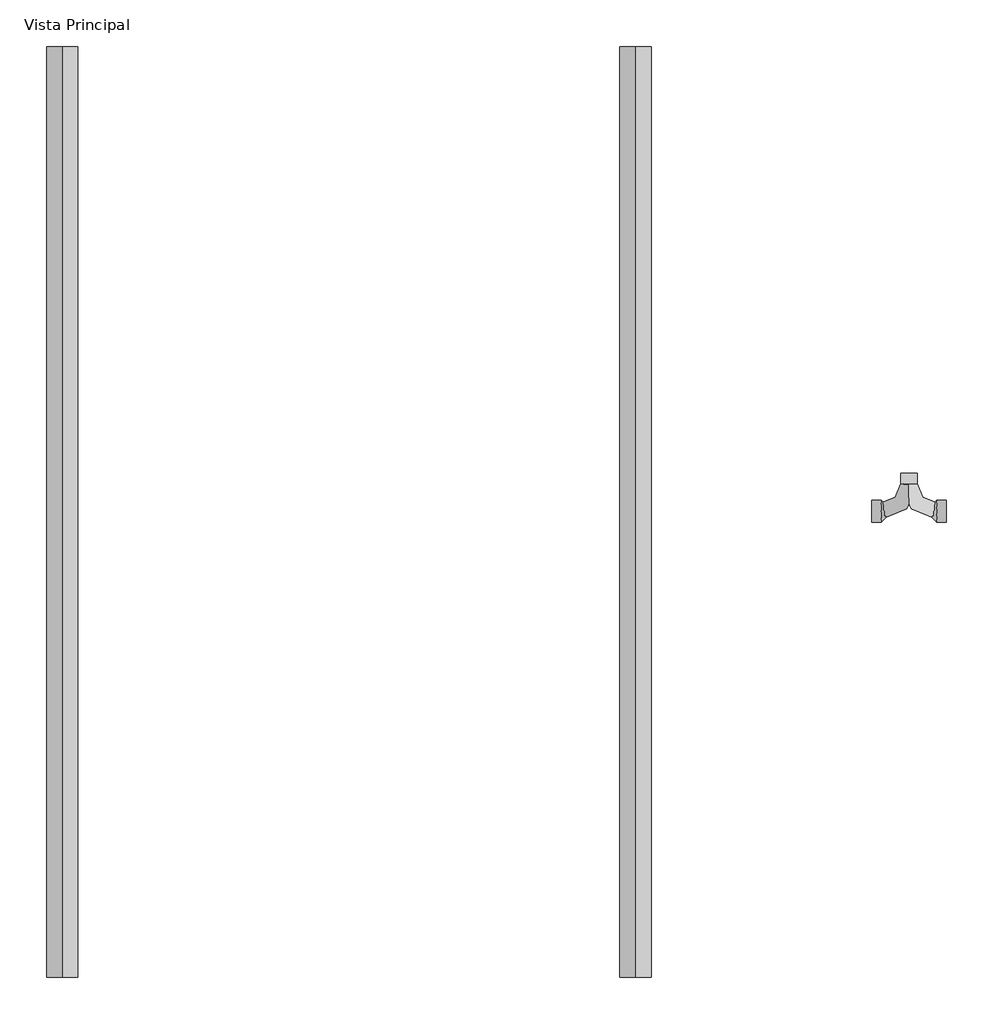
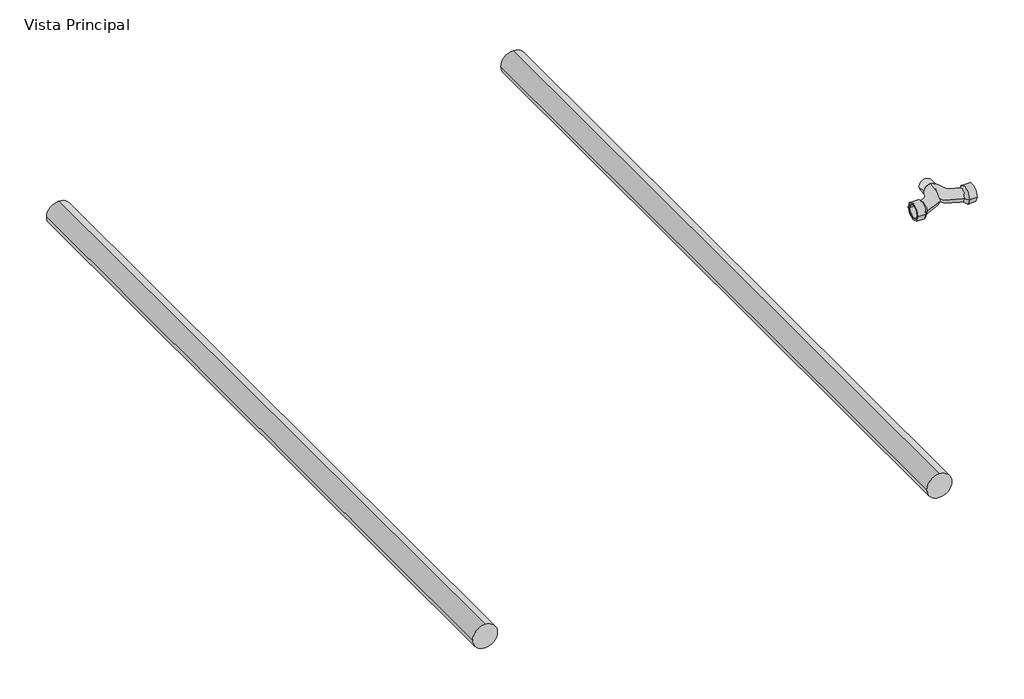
# One storey, incomplete: 2 pipe segments, 1 pipe fitting.
"""IFC4 building model written with IfcOpenShell, lengths in millimetres."""

from ifc_helpers import new_model, si_unit, point, frame, frame_2d, origin, place, context, project, spatial, circle_curve, trimmed, segment, composite_curve, outline, extrude, transform, mapped, element, save
from components import var_d6b9dcd6

model = new_model("IFC4")

# Units and contexts
model_context = context("Model", 3, world=origin())
ifc_project = project(units=[si_unit("LENGTHUNIT", "METRE", prefix="MILLI")], contexts=[model_context])

# Site, building, storey
site = spatial("IfcSite", under=ifc_project)
building = spatial("IfcBuilding", under=site)
storey = spatial("IfcBuildingStorey", under=building, Name="Vista Principal", Elevation=0.0)

# Pipe fitting
placement = place(None, origin())
var_shape = var_d6b9dcd6(model_context)
element("IfcPipeFitting", 1, ObjectType="AmancoWavin_ConexõesdeTubos_CPVCFlowGuardTêMisturador : var.", at=placement, inside=storey, context=model_context, shape_type="MappedRepresentation", body=[
    mapped(var_shape, transform((88018.0103695, 47356.4920228, 0.0), x_axis=(1.0, 0.0, 0.0), y_axis=(0.0, 1.0, 0.0), z_axis=(0.0, 0.0, 1.0))),
])

# Pipe segments
element("IfcPipeSegment", 2, ObjectType="Amanco Wavin Super CPVC FlowGuard", at=placement, inside=storey, context=model_context, shape_type="SweptSolid", body=[
    extrude(outline(composite_curve([segment(trimmed(circle_curve(frame_2d((0.0, 86562.6450515)), 26.975), [point((0.0, 86535.6700515))], [point((-26.975, 86562.6450515))], False, "CARTESIAN"), True, "CONTINUOUS"), segment(trimmed(circle_curve(frame_2d((0.0, 86562.6450515)), 26.975), [point((-26.975, 86562.6450515))], [point((0.0, 86589.6200515))], False, "CARTESIAN"), True, "CONTINUOUS"), segment(trimmed(circle_curve(frame_2d((0.0, 86562.6450515)), 26.975), [point((0.0, 86589.6200515))], [point((26.975, 86562.6450515))], False, "CARTESIAN"), True, "CONTINUOUS"), segment(trimmed(circle_curve(frame_2d((0.0, 86562.6450515)), 26.975), [point((26.975, 86562.6450515))], [point((0.0, 86535.6700515))], False, "CARTESIAN"), True, "CONTINUOUS")], self_intersect=False)), frame((0.0, 46555.1629246, 0.0), z_axis=(0.0, 1.0, 0.0), x_axis=(0.0, 0.0, 1.0)), (0.0, 0.0, 1.0), 1600.0),
])
element("IfcPipeSegment", 3, ObjectType="Amanco Wavin CPVC PN 12", at=placement, inside=storey, context=model_context, shape_type="SweptSolid", body=[
    extrude(outline(composite_curve([segment(trimmed(circle_curve(frame_2d((0.0, 87547.6450515)), 26.975), [point((0.0, 87520.6700515))], [point((-26.975, 87547.6450515))], False, "CARTESIAN"), True, "CONTINUOUS"), segment(trimmed(circle_curve(frame_2d((0.0, 87547.6450515)), 26.975), [point((-26.975, 87547.6450515))], [point((0.0, 87574.6200515))], False, "CARTESIAN"), True, "CONTINUOUS"), segment(trimmed(circle_curve(frame_2d((0.0, 87547.6450515)), 26.975), [point((0.0, 87574.6200515))], [point((26.975, 87547.6450515))], False, "CARTESIAN"), True, "CONTINUOUS"), segment(trimmed(circle_curve(frame_2d((0.0, 87547.6450515)), 26.975), [point((26.975, 87547.6450515))], [point((0.0, 87520.6700515))], False, "CARTESIAN"), True, "CONTINUOUS")], self_intersect=False)), frame((0.0, 46555.1629246, 0.0), z_axis=(0.0, 1.0, 0.0), x_axis=(0.0, 0.0, 1.0)), (0.0, 0.0, 1.0), 1600.0),
])

save(model, "model.ifc")
